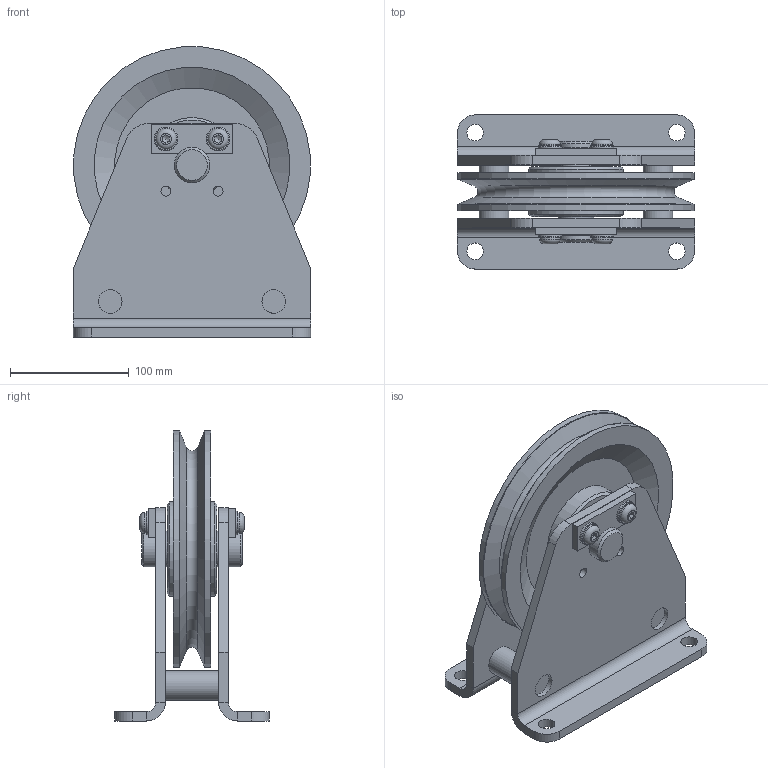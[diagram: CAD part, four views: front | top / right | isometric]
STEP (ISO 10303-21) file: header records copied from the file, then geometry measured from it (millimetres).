
FILE_DESCRIPTION(/* description */ ('Seilrollenbock ø200 Stahl Kugellager komplett'),/* implementation_level */ '2;1');
FILE_NAME(/* name */ 'Z:\Workspace\03 Seilrollen\1.405 K Seilrollenbock Stahl Kugellager\1.405.06 K Seilrollenbock ø200 Stahl Kugellager\1.405.06 K Seilrollenbock ø200 Stahl Kugellager komplett.stp',/* time_stamp */ '2021-10-05T12:56:43+02:00',/* author */ ('cad-user'),/* organization */ (''),/* preprocessor_version */ 'ST-DEVELOPER v18',/* originating_system */ 'Autodesk Inventor 2020',/* authorisation */ '');
FILE_SCHEMA (('AUTOMOTIVE_DESIGN { 1 0 10303 214 3 1 1 }'));
Length unit declared in the file: millimetre
Products named in the file (16): 1.405.06 K Seilrollenbock ø200 Stahl Kugellager komplett; 1.405.06.01 Seilrollenbock Schweißteil; 1.405.06.01 Blech; 1.405.06.01 Distanzachse; 1.402.06 Seilrolle ø200 Kugellager komplett; 1.402.06 Seilrolle ø200 Kugellager; 63006-2RS; ball_bearing_63006-2rs1_0_05; ball_bearing_63006-2rs1_0_04; ball_bearing_63006-2rs1_0_03; ball_bearing_63006-2rs1_0_02; ball_bearing_63006-2rs1_0_01; 1.405.06.03 Lasche; 1.405.06.02 Achse; DIN 125-1 - B 10,5; ISO 7380 - M10 x 16
Assembly tree (25 placements, depth 4):
  1.405.06 K Seilrollenbock ø200 Stahl Kugellager komplett
    1.405.06.01 Seilrollenbock Schweißteil
      1.405.06.01 Blech  x2
      1.405.06.01 Distanzachse  x2
    1.402.06 Seilrolle ø200 Kugellager komplett
      1.402.06 Seilrolle ø200 Kugellager
      63006-2RS  x2
        ball_bearing_63006-2rs1_0_05
        ball_bearing_63006-2rs1_0_04
        ball_bearing_63006-2rs1_0_03
        ball_bearing_63006-2rs1_0_02
        ball_bearing_63006-2rs1_0_01
    1.405.06.03 Lasche  x2
    1.405.06.02 Achse
    DIN 125-1 - B 10,5  x4
    ISO 7380 - M10 x 16  x4
Bounding box: 200 x 130 x 244.63 mm (x, y, z)
Volume: 1300922.9 mm3; surface area: 335032.2 mm2
Topology: 26 solids, 26 shells, 293 faces, 773 edges, 554 vertices
Faces by surface type: plane 136, cylinder 96, torus 41, cone 20
Full cylindrical faces by diameter (mm): 8.376 x8, 10 x4, 10.5 x4, 11 x4, 14 x4, 17.5 x4, 20 x12, 25 x2, 30 x5, 37.327 x4, 39.875 x4, 44.962 x4, 45 x1, 48.345 x4, 48.525 x4, 49 x8, 55 x4, 80 x2, 200 x2
Entity records: 5493 total; most frequent: DIRECTION 1001, CARTESIAN_POINT 859, ORIENTED_EDGE 766, AXIS2_PLACEMENT_3D 440, EDGE_CURVE 383, VERTEX_POINT 277, CIRCLE 255, EDGE_LOOP 194
